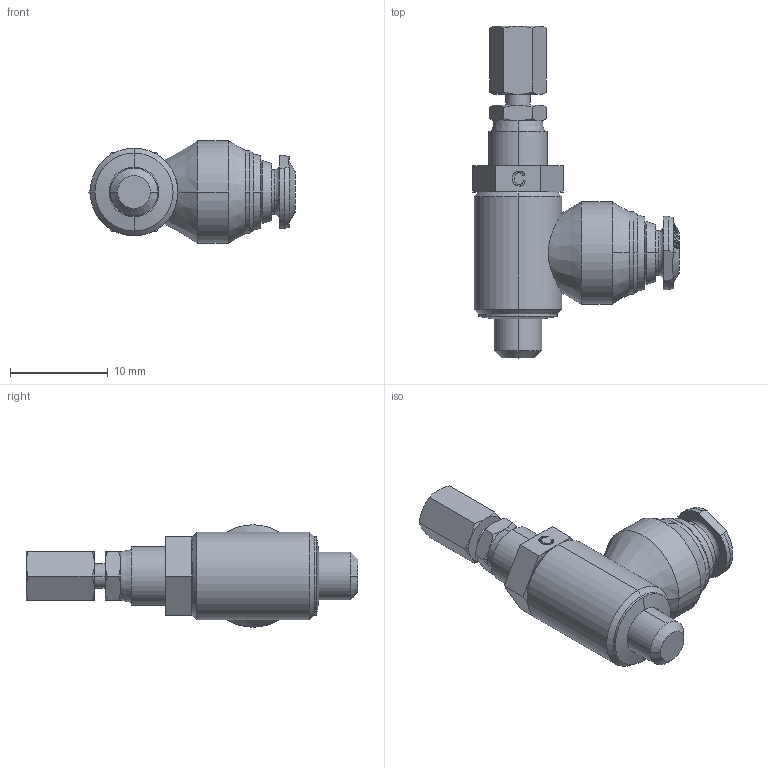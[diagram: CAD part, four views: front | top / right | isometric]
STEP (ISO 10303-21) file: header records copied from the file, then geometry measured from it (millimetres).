
FILE_DESCRIPTION (( 'STEP AP203' ), '1' );
FILE_NAME ('249220.STEP', '2016-09-20T13:01:20', ( '' ), ( '' ), 'SwSTEP 2.0', 'SolidWorks 2016', '' );
FILE_SCHEMA (( 'CONFIG_CONTROL_DESIGN' ));
Length unit declared in the file: millimetre
Products named in the file (1): 249220
Bounding box: 21.12 x 34 x 10.5 mm (x, y, z)
Volume: 2078.3 mm3; surface area: 1338.7 mm2
Topology: 1 solids, 1 shells, 229 faces, 557 edges, 354 vertices
Faces by surface type: bspline 98, cone 68, plane 41, cylinder 22
Entity records: 13455 total; most frequent: CARTESIAN_POINT 8720, ORIENTED_EDGE 1114, DIRECTION 676, EDGE_CURVE 557, VERTEX_POINT 354, B_SPLINE_CURVE_WITH_KNOTS 255, EDGE_LOOP 253, AXIS2_PLACEMENT_3D 242
